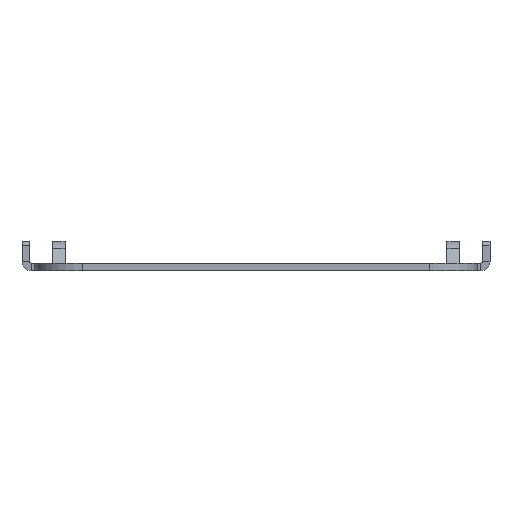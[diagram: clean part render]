
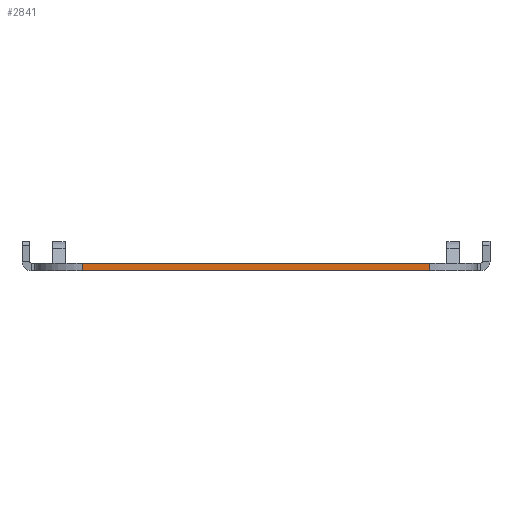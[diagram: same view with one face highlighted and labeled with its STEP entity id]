
A CAD part, front view. The second image highlights one B-rep face of the part: STEP entity #2841.
In plain terms, the highlighted planar face has unit normal (0, -1, 0).
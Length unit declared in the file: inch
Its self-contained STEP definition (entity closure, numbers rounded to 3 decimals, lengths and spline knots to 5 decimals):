
#140=DIRECTION('',(1.,0.,0.));
#141=VECTOR('',#140,2.205);
#142=CARTESIAN_POINT('',(-1.1025,-4.5,0.));
#143=LINE('',#142,#141);
#339=DIRECTION('',(0.,0.,1.));
#340=VECTOR('',#339,0.0478);
#341=CARTESIAN_POINT('',(-1.1025,-4.5,-0.0478));
#342=LINE('',#341,#340);
#343=DIRECTION('',(0.,0.,1.));
#344=VECTOR('',#343,0.0478);
#345=CARTESIAN_POINT('',(1.1025,-4.5,-0.0478));
#346=LINE('',#345,#344);
#448=DIRECTION('',(1.,0.,0.));
#449=VECTOR('',#448,2.205);
#450=CARTESIAN_POINT('',(-1.1025,-4.5,-0.0478));
#451=LINE('',#450,#449);
#2185=CARTESIAN_POINT('',(-1.1025,-4.5,0.));
#2186=VERTEX_POINT('',#2185);
#2187=CARTESIAN_POINT('',(-1.1025,-4.5,-0.0478));
#2188=VERTEX_POINT('',#2187);
#2189=CARTESIAN_POINT('',(1.1025,-4.5,0.));
#2190=VERTEX_POINT('',#2189);
#2191=CARTESIAN_POINT('',(1.1025,-4.5,-0.0478));
#2192=VERTEX_POINT('',#2191);
#2828=CARTESIAN_POINT('',(0.,-4.5,-0.0239));
#2829=DIRECTION('',(0.,-1.,0.));
#2830=DIRECTION('',(1.,0.,0.));
#2831=AXIS2_PLACEMENT_3D('',#2828,#2829,#2830);
#2832=PLANE('',#2831);
#2833=ORIENTED_EDGE('',*,*,#2820,.T.);
#2834=ORIENTED_EDGE('',*,*,#2686,.T.);
#2836=ORIENTED_EDGE('',*,*,#2835,.F.);
#2838=ORIENTED_EDGE('',*,*,#2837,.F.);
#2839=EDGE_LOOP('',(#2833,#2834,#2836,#2838));
#2840=FACE_OUTER_BOUND('',#2839,.F.);
#2841=ADVANCED_FACE('',(#2840),#2832,.T.);
#2686=EDGE_CURVE('',#2186,#2190,#143,.T.);
#2820=EDGE_CURVE('',#2188,#2186,#342,.T.);
#2835=EDGE_CURVE('',#2192,#2190,#346,.T.);
#2837=EDGE_CURVE('',#2188,#2192,#451,.T.);
